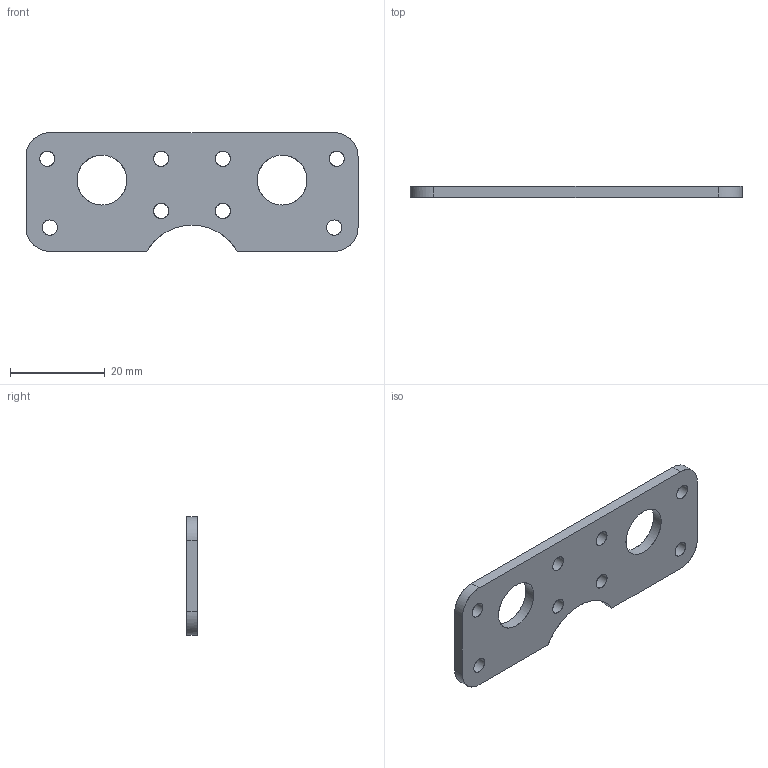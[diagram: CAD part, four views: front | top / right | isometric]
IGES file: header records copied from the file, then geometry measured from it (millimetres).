
Start section: C
Global section: file name: cylinderplate.igs; native system:  By UGS Corp.; preprocessor: XPlus GENERIC/IGES 3.0; author: Author; organization: Title; date: 20121205.205329; units: millimetre
Bounding box: 70 x 2.3 x 25 mm (x, y, z)
Surface area: 3597.2 mm2 (no closed solid volume)
Topology: 0 solids, 0 shells, 23 faces, 166 edges, 166 vertices
Faces by surface type: bspline 23
